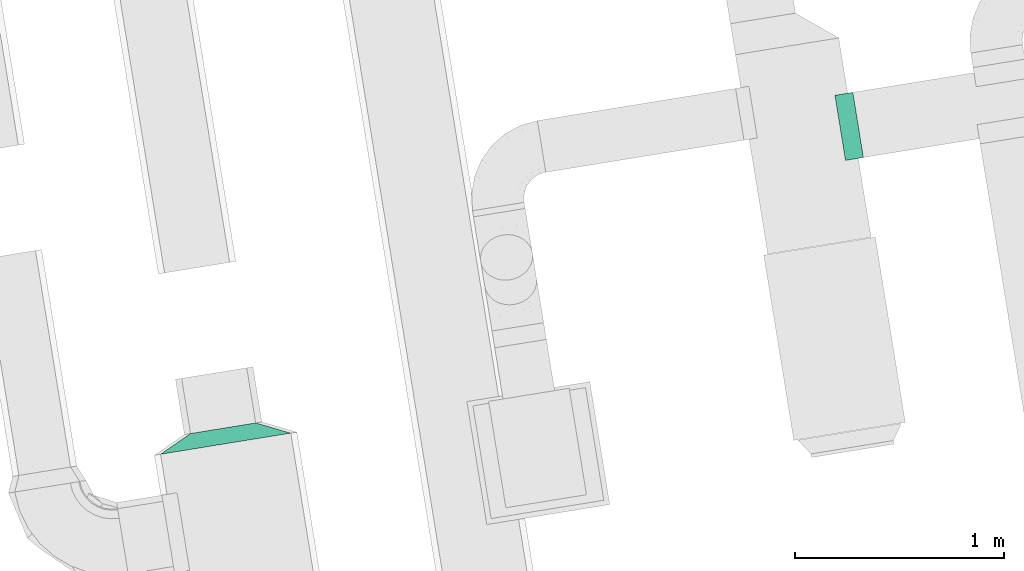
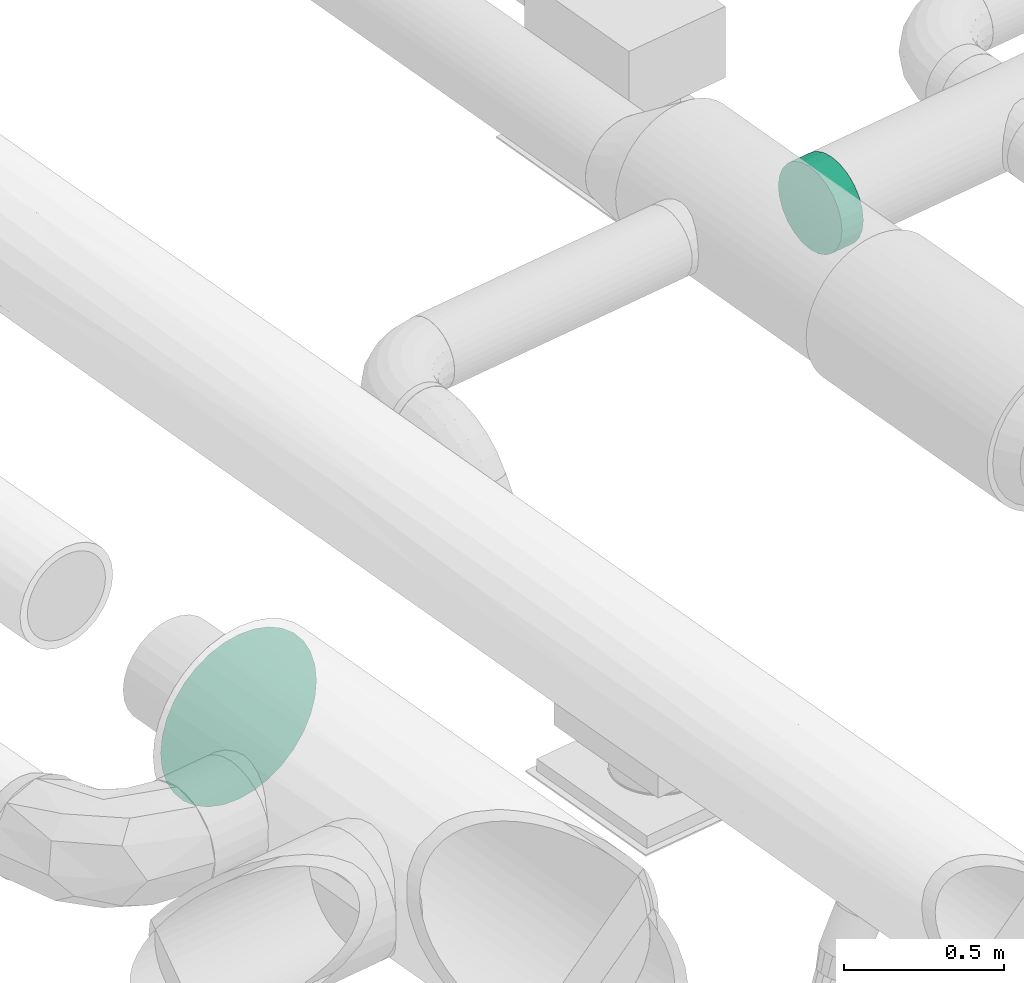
# One storey, part 35 of 39: 2 flow fittings.
"""IFC2X3 building model written with IfcOpenShell, lengths in millimetres."""

from ifc_helpers import new_model, entity, si_unit, converted_unit, derived_unit, direction, frame, origin, origin_with_axes, place, context, subcontext, project, spatial, faceted_brep, source, transform, mapped, material, type_object, element, save


model = new_model("IFC2X3")

# Units and contexts
plan_context = context("Plan", 3, precision=1e-05, world=origin_with_axes())
model_context = context("Model", 3, precision=0.01, world=origin(), true_north=direction((6.12323399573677e-17, 1.0)))
body_context = subcontext(model_context, "Body", "Model", "MODEL_VIEW")
ifc_project = project(units=[converted_unit("PLANEANGLEUNIT", "DEGREE", entity("IfcPositiveLengthMeasure", 0.0174532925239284), si_unit("PLANEANGLEUNIT", "RADIAN"), dimensions=[0, 0, 0, 0, 0, 0, 0]), si_unit("AREAUNIT", "SQUARE_METRE"), si_unit("LENGTHUNIT", "METRE", prefix="MILLI"), si_unit("MASSUNIT", "GRAM", prefix="KILO"), si_unit("POWERUNIT", "WATT"), si_unit("PRESSUREUNIT", "PASCAL", prefix="KILO"), si_unit("FORCEUNIT", "NEWTON", prefix="KILO"), si_unit("ELECTRICVOLTAGEUNIT", "VOLT"), si_unit("ELECTRICCURRENTUNIT", "AMPERE"), si_unit("THERMODYNAMICTEMPERATUREUNIT", "DEGREE_CELSIUS"), si_unit("TIMEUNIT", "SECOND"), si_unit("VOLUMEUNIT", "CUBIC_METRE"), derived_unit("LINEARVELOCITYUNIT", [(si_unit("LENGTHUNIT", "METRE"), 1), (si_unit("TIMEUNIT", "SECOND"), -1)]), derived_unit("VOLUMETRICFLOWRATEUNIT", [(si_unit("VOLUMEUNIT", "CUBIC_METRE"), 1), (si_unit("TIMEUNIT", "SECOND"), -1)]), derived_unit("THERMALTRANSMITTANCEUNIT", [(si_unit("POWERUNIT", "WATT"), 1), (si_unit("THERMODYNAMICTEMPERATUREUNIT", "KELVIN"), -1), (si_unit("AREAUNIT", "SQUARE_METRE"), -1)]), derived_unit("SOUNDPRESSUREUNIT", [(si_unit("PRESSUREUNIT", "PASCAL"), 1)])], contexts=[model_context, plan_context])

# Site, building, storey
site_placement = place(None, frame((-0.00071070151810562, 0.00438415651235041, 0.0), z_axis=(0.0, 0.0, 1.0), x_axis=(-0.160236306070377, 0.987078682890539, 0.0)))
site = spatial("IfcSite", under=ifc_project, at=site_placement, Name="Default", CompositionType="ELEMENT")
building_placement = place(site_placement, origin_with_axes())
building = spatial("IfcBuilding", under=site, at=building_placement, CompositionType="ELEMENT")
storey_placement = place(building_placement, frame((0.0, 0.0, 58999.9999999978), z_axis=(0.0, 0.0, 1.0), x_axis=(1.0, 0.0, 0.0)))
storey = spatial("IfcBuildingStorey", under=building, at=storey_placement, Name="Nivå F", CompositionType="ELEMENT", Elevation=58999.9999999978)

# Flow fittings
ifc_material_1 = material(Name="Material_Duct")
duct_fitting_type_1 = type_object("IfcDuctFittingType", Name="magicirc_reduction_001:magicirc_reduction_001", PredefinedType="NOTDEFINED", material=ifc_material_1)
shared_shape_1 = source(origin(), body_context, "Body", "Brep", [
    faceted_brep([(75.0, -61.4534514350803, 308.947363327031), (75.0, -120.545281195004, 291.022052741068), (75.0, -175.004623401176, 261.912927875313), (75.0, -222.738636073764, 222.738636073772), (75.0, -261.912927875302, 175.004623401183), (75.0, -291.022052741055, 120.54528119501), (75.0, -308.947363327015, 61.453451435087), (75.0, -315.0, 0.0), (75.0, -308.947363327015, -61.4534514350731), (75.0, -291.022052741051, -120.545281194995), (75.0, -261.912927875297, -175.004623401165), (75.0, -222.738636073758, -222.738636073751), (75.0, -175.004623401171, -261.912927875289), (75.0, -120.545281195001, -291.022052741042), (75.0, -61.4534514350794, -308.947363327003), (75.0, 0.0, -315.0), (75.0, 61.4534514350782, -308.947363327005), (75.0, 120.545281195, -291.022052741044), (75.0, 175.004623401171, -261.912927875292), (75.0, 222.738636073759, -222.738636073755), (75.0, 261.9129278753, -175.004623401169), (75.0, 291.022052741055, -120.545281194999), (75.0, 308.947363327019, -61.4534514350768), (75.0, 315.0, 0.0), (75.0, 308.94736332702, 61.4534514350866), (75.0, 291.02205274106, 120.54528119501), (75.0, 261.912927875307, 175.004623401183), (75.0, 222.738636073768, 222.738636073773), (75.0, 175.00462340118, 261.912927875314), (75.0, 120.545281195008, 291.022052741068), (75.0, 61.4534514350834, 308.947363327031), (75.0, 0.0, 315.0), (0.0, 111.369318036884, 111.369318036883), (0.0, 136.399001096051, 78.7500000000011), (0.0, 152.133317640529, 40.7639996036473), (0.0, 157.500000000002, 0.0), (0.0, 152.133317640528, -40.763999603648), (0.0, 136.399001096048, -78.7500000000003), (0.0, 111.369318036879, -111.36931803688), (0.0, 78.7499999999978, -136.399001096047), (0.0, 40.7639996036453, -152.133317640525), (0.0, 0.0, -157.499999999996), (0.0, -40.7639996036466, -152.133317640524), (0.0, -78.7499999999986, -136.399001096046), (0.0, -111.369318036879, -111.369318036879), (0.0, -136.399001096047, -78.7499999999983), (0.0, -152.133317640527, -40.7639996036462), (0.0, -157.499999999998, 0.0), (0.0, -152.133317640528, 40.7639996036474), (0.0, -136.39900109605, 78.7500000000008), (0.0, -111.369318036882, 111.369318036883), (0.0, -78.7500000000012, 136.399001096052), (0.0, -40.7639996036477, 152.133317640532), (0.0, 0.0, 157.500000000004), (0.0, 40.7639996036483, 152.133317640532), (0.0, 78.750000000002, 136.399001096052)], [[[0, 1, 2, 3, 4, 5, 6, 7, 8, 9, 10, 11, 12, 13, 14, 15, 16, 17, 18, 19, 20, 21, 22, 23, 24, 25, 26, 27, 28, 29, 30, 31]], [[32, 33, 34, 35, 36, 37, 38, 39, 40, 41, 42, 43, 44, 45, 46, 47, 48, 49, 50, 51, 52, 53, 54, 55]], [[46, 8, 47]], [[45, 9, 46]], [[43, 42, 13]], [[12, 44, 43]], [[14, 42, 41]], [[44, 10, 45]], [[9, 8, 46]], [[45, 10, 9]], [[8, 7, 47]], [[12, 11, 44]], [[13, 12, 43]], [[42, 14, 13]], [[11, 10, 44]], [[41, 15, 14]], [[15, 41, 16]], [[16, 41, 40]], [[39, 17, 40]], [[37, 36, 21]], [[20, 38, 37]], [[18, 39, 38]], [[22, 36, 35]], [[16, 40, 17]], [[17, 39, 18]], [[19, 18, 38]], [[38, 20, 19]], [[37, 21, 20]], [[22, 21, 36]], [[35, 23, 22]], [[34, 24, 35]], [[33, 25, 34]], [[55, 54, 29]], [[28, 32, 55]], [[30, 54, 53]], [[32, 26, 33]], [[25, 24, 34]], [[33, 26, 25]], [[24, 23, 35]], [[28, 27, 32]], [[29, 28, 55]], [[54, 30, 29]], [[27, 26, 32]], [[53, 31, 30]], [[31, 53, 0]], [[0, 53, 52]], [[51, 1, 52]], [[49, 48, 5]], [[4, 50, 49]], [[2, 51, 50]], [[6, 48, 47]], [[0, 52, 1]], [[1, 51, 2]], [[3, 2, 50]], [[50, 4, 3]], [[49, 5, 4]], [[6, 5, 48]], [[47, 7, 6]]]),
])
flow_fitting_1_placement = place(storey_placement, frame((777053.610474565, -502178.834705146, 3130.03415297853), z_axis=(0.0, 0.0, 1.0), x_axis=(-1.0, 0.0, 0.0)))
element("IfcFlowFitting", 1, at=flow_fitting_1_placement, inside=storey, type_object=duct_fitting_type_1, material=ifc_material_1, Name="magicirc_reduction_001:magicirc_reduction_001", ObjectType="magicirc_reduction_001:magicirc_reduction_001", context=body_context, shape_type="MappedRepresentation", body=[
    mapped(shared_shape_1, transform((0.0, 0.0, 0.0), scale=1.0)),
])
ifc_material_2 = material(Name="<Unnamed>")
duct_fitting_type_2 = type_object("IfcDuctFittingType", Name="magicirc_tapoutlet_1:magicirc_tapoutlet_001", PredefinedType="NOTDEFINED", material=ifc_material_2)
shared_shape_2 = source(origin(), body_context, "Body", "Brep", [
    faceted_brep([(-61.9472168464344, 0.0, -157.500000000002), (-61.9472168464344, -40.7639996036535, -152.133317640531), (-61.9472168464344, -78.7500000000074, -136.399001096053), (-61.9472168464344, -111.36931803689, -111.369318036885), (-61.9472168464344, -136.399001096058, -78.7500000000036), (-61.9472168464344, -152.133317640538, -40.7639996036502), (-61.9472168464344, -157.500000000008, 0.0), (-61.9472168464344, -152.133317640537, 40.7639996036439), (-61.9472168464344, -136.399001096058, 78.749999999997), (-61.9472168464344, -111.36931803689, 111.369318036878), (-61.9472168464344, -78.7500000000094, 136.399001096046), (-61.9472168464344, -40.7639996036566, 152.133317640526), (-61.9472168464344, 0.0, 157.499999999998), (-61.9472168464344, 40.7639996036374, 152.133317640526), (-61.9472168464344, 78.7499999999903, 136.399001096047), (-61.9472168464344, 111.369318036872, 111.36931803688), (-61.9472168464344, 136.39900109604, 78.7499999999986), (-61.9472168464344, 152.133317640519, 40.7639996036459), (-61.9472168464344, 157.499999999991, 0.0), (-61.9472168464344, 152.13331764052, -40.7639996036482), (-61.9472168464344, 136.399001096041, -78.7500000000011), (-61.9472168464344, 111.369318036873, -111.369318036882), (-61.9472168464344, 78.7499999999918, -136.39900109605), (-61.9472168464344, 40.763999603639, -152.133317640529), (0.0, 0.0, 157.499999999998), (25.0, 0.0, 157.499999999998), (25.0, 40.7639996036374, 152.133317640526), (0.0, 40.7639996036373, 152.133317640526), (25.0, 78.7499999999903, 136.399001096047), (0.0, 78.7499999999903, 136.399001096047), (25.0, 111.369318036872, 111.36931803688), (0.0, 111.369318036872, 111.36931803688), (0.0, 136.39900109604, 78.7499999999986), (25.0, 136.39900109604, 78.7499999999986), (25.0, 152.133317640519, 40.7639996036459), (0.0, 152.133317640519, 40.7639996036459), (25.0, 157.499999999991, 0.0), (0.0, 157.499999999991, 0.0), (25.0, 152.13331764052, -40.7639996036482), (0.0, 152.13331764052, -40.7639996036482), (25.0, 136.399001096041, -78.7500000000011), (0.0, 136.399001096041, -78.7500000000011), (25.0, 111.369318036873, -111.369318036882), (0.0, 111.369318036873, -111.369318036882), (0.0, 78.7499999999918, -136.39900109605), (25.0, 78.7499999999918, -136.39900109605), (25.0, 40.763999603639, -152.133317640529), (0.0, 40.763999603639, -152.133317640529), (25.0, 0.0, -157.500000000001), (0.0, 0.0, -157.500000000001), (25.0, -40.7639996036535, -152.133317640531), (0.0, -40.7639996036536, -152.133317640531), (25.0, -78.7500000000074, -136.399001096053), (0.0, -78.7500000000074, -136.399001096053), (25.0, -111.36931803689, -111.369318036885), (0.0, -111.36931803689, -111.369318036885), (0.0, -152.133317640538, -40.7639996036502), (25.0, -152.133317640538, -40.7639996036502), (25.0, -157.50000000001, 0.0), (0.0, -157.50000000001, 0.0), (0.0, -136.399001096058, -78.7500000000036), (25.0, -136.399001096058, -78.7500000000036), (25.0, -152.133317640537, 40.7639996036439), (0.0, -152.133317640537, 40.7639996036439), (25.0, -136.399001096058, 78.749999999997), (0.0, -136.399001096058, 78.749999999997), (25.0, -111.36931803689, 111.369318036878), (0.0, -111.36931803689, 111.369318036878), (0.0, -78.7500000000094, 136.399001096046), (25.0, -78.7500000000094, 136.399001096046), (25.0, -40.7639996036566, 152.133317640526), (0.0, -40.7639996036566, 152.133317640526)], [[[0, 1, 2, 3, 4, 5, 6, 7, 8, 9, 10, 11, 12, 13, 14, 15, 16, 17, 18, 19, 20, 21, 22, 23]], [[12, 24, 25, 26, 27, 13]], [[13, 27, 26, 28, 29, 14]], [[14, 29, 28, 30, 31, 15]], [[16, 32, 33, 34, 35, 17]], [[17, 35, 34, 36, 37, 18]], [[15, 31, 30, 33, 32, 16]], [[18, 37, 36, 38, 39, 19]], [[19, 39, 38, 40, 41, 20]], [[20, 41, 40, 42, 43, 21]], [[23, 22, 44, 45, 46, 47]], [[0, 23, 47, 46, 48, 49]], [[21, 43, 42, 45, 44, 22]], [[0, 49, 48, 50, 51, 1]], [[1, 51, 50, 52, 53, 2]], [[2, 53, 52, 54, 55, 3]], [[56, 57, 58, 59, 6, 5]], [[60, 61, 57, 56, 5, 4]], [[3, 55, 54, 61, 60, 4]], [[6, 59, 58, 62, 63, 7]], [[7, 63, 62, 64, 65, 8]], [[8, 65, 64, 66, 67, 9]], [[10, 68, 69, 70, 71, 11]], [[11, 71, 70, 25, 24, 12]], [[9, 67, 66, 69, 68, 10]], [[46, 45, 42, 40, 38, 36, 34, 33, 30, 28, 26, 25, 70, 69, 66, 64, 62, 58, 57, 61, 54, 52, 50, 48]]]),
    faceted_brep([(25.0, 40.763999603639, -152.133317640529), (25.0, 78.7499999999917, -136.39900109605), (25.0, 111.369318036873, -111.369318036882), (25.0, 136.399001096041, -78.7500000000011), (25.0, 152.13331764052, -40.7639996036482), (25.0, 157.499999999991, 0.0), (25.0, 152.133317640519, 40.7639996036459), (25.0, 136.399001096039, 78.7499999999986), (25.0, 111.369318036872, 111.36931803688), (25.0, 78.7499999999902, 136.399001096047), (25.0, 40.7639996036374, 152.133317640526), (25.0, 0.0, 157.499999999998), (25.0, -40.7639996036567, 152.133317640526), (25.0, -78.7500000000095, 136.399001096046), (25.0, -111.369318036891, 111.369318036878), (25.0, -136.399001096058, 78.749999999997), (25.0, -152.133317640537, 40.7639996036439), (25.0, -157.50000000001, 0.0), (25.0, -152.133317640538, -40.7639996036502), (25.0, -136.399001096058, -78.7500000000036), (25.0, -111.36931803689, -111.369318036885), (25.0, -78.7500000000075, -136.399001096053), (25.0, -40.7639996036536, -152.133317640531), (25.0, 0.0, -157.500000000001), (0.0, 0.0, 157.499999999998), (0.0, 40.7639996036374, 152.133317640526), (-61.9472168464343, 40.7639996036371, 152.133317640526), (-61.9472168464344, 0.0, 157.499999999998), (0.0, 78.7499999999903, 136.399001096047), (-61.9472168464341, 78.74999999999, 136.399001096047), (0.0, 111.369318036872, 111.36931803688), (-61.947216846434, 111.369318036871, 111.36931803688), (0.0, 136.39900109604, 78.7499999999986), (0.0, 152.133317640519, 40.7639996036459), (-61.9472168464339, 152.133317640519, 40.7639996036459), (-61.9472168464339, 136.399001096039, 78.7499999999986), (0.0, 157.499999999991, 0.0), (-61.9472168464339, 157.499999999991, 0.0), (0.0, 152.13331764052, -40.7639996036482), (-61.9472168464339, 152.133317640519, -40.7639996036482), (0.0, 136.399001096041, -78.7500000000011), (-61.9472168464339, 136.39900109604, -78.7500000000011), (0.0, 111.369318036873, -111.369318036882), (-61.947216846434, 111.369318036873, -111.369318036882), (0.0, 0.0, -157.500000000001), (-61.9472168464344, 0.0, -157.500000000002), (-61.9472168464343, 40.7639996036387, -152.133317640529), (0.0, 40.763999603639, -152.133317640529), (-61.9472168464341, 78.7499999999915, -136.39900109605), (0.0, 78.7499999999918, -136.39900109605), (0.0, -40.7639996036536, -152.133317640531), (-61.9472168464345, -40.7639996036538, -152.133317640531), (0.0, -78.7500000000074, -136.399001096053), (-61.9472168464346, -78.7500000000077, -136.399001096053), (0.0, -111.36931803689, -111.369318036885), (-61.9472168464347, -111.36931803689, -111.369318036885), (0.0, -136.399001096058, -78.7500000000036), (0.0, -152.133317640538, -40.7639996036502), (-61.9472168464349, -152.133317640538, -40.7639996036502), (-61.9472168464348, -136.399001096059, -78.7500000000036), (0.0, -157.50000000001, 0.0), (-61.9472168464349, -157.500000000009, 0.0), (0.0, -152.133317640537, 40.763999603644), (-61.9472168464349, -152.133317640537, 40.7639996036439), (0.0, -136.399001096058, 78.749999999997), (-61.9472168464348, -136.399001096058, 78.749999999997), (0.0, -111.36931803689, 111.369318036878), (-61.9472168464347, -111.369318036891, 111.369318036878), (0.0, -78.7500000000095, 136.399001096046), (0.0, -40.7639996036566, 152.133317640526), (-61.9472168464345, -40.7639996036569, 152.133317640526), (-61.9472168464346, -78.7500000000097, 136.399001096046)], [[[0, 1, 2, 3, 4, 5, 6, 7, 8, 9, 10, 11, 12, 13, 14, 15, 16, 17, 18, 19, 20, 21, 22, 23]], [[24, 11, 10, 25, 26, 27]], [[25, 10, 9, 28, 29, 26]], [[28, 9, 8, 30, 31, 29]], [[32, 7, 6, 33, 34, 35]], [[33, 6, 5, 36, 37, 34]], [[30, 8, 7, 32, 35, 31]], [[36, 5, 4, 38, 39, 37]], [[38, 4, 3, 40, 41, 39]], [[40, 3, 2, 42, 43, 41]], [[0, 23, 44, 45, 46, 47]], [[1, 0, 47, 46, 48, 49]], [[49, 48, 43, 42, 2, 1]], [[44, 23, 22, 50, 51, 45]], [[50, 22, 21, 52, 53, 51]], [[52, 21, 20, 54, 55, 53]], [[56, 19, 18, 57, 58, 59]], [[57, 18, 17, 60, 61, 58]], [[54, 20, 19, 56, 59, 55]], [[60, 17, 16, 62, 63, 61]], [[62, 16, 15, 64, 65, 63]], [[64, 15, 14, 66, 67, 65]], [[68, 13, 12, 69, 70, 71]], [[69, 12, 11, 24, 27, 70]], [[66, 14, 13, 68, 71, 67]], [[45, 51, 53, 55, 59, 58, 61, 63, 65, 67, 71, 70, 27, 26, 29, 31, 35, 34, 37, 39, 41, 43, 48, 46]]]),
    faceted_brep([(-61.9472168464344, 0.0, -157.500000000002), (-61.9472168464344, -40.7639996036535, -152.133317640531), (-61.9472168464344, -78.7500000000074, -136.399001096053), (-61.9472168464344, -111.36931803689, -111.369318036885), (-61.9472168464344, -136.399001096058, -78.7500000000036), (-61.9472168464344, -152.133317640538, -40.7639996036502), (-61.9472168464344, -157.500000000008, 0.0), (-61.9472168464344, -152.133317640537, 40.7639996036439), (-61.9472168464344, -136.399001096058, 78.749999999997), (-61.9472168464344, -111.36931803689, 111.369318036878), (-61.9472168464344, -78.7500000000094, 136.399001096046), (-61.9472168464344, -40.7639996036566, 152.133317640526), (-61.9472168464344, 0.0, 157.499999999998), (-61.9472168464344, 40.7639996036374, 152.133317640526), (-61.9472168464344, 78.7499999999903, 136.399001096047), (-61.9472168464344, 111.369318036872, 111.36931803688), (-61.9472168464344, 136.39900109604, 78.7499999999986), (-61.9472168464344, 152.133317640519, 40.7639996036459), (-61.9472168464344, 157.499999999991, 0.0), (-61.9472168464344, 152.13331764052, -40.7639996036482), (-61.9472168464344, 136.399001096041, -78.7500000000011), (-61.9472168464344, 111.369318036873, -111.369318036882), (-61.9472168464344, 78.7499999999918, -136.39900109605), (-61.9472168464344, 40.763999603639, -152.133317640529), (0.0, 0.0, 157.499999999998), (25.0, 0.0, 157.499999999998), (25.0, 40.7639996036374, 152.133317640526), (0.0, 40.7639996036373, 152.133317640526), (25.0, 78.7499999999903, 136.399001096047), (0.0, 78.7499999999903, 136.399001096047), (25.0, 111.369318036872, 111.36931803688), (0.0, 111.369318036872, 111.36931803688), (0.0, 136.39900109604, 78.7499999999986), (25.0, 136.39900109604, 78.7499999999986), (25.0, 152.133317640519, 40.7639996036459), (0.0, 152.133317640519, 40.7639996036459), (25.0, 157.499999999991, 0.0), (0.0, 157.499999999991, 0.0), (25.0, 152.13331764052, -40.7639996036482), (0.0, 152.13331764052, -40.7639996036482), (25.0, 136.399001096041, -78.7500000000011), (0.0, 136.399001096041, -78.7500000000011), (25.0, 111.369318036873, -111.369318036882), (0.0, 111.369318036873, -111.369318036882), (0.0, 78.7499999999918, -136.39900109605), (25.0, 78.7499999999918, -136.39900109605), (25.0, 40.763999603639, -152.133317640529), (0.0, 40.763999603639, -152.133317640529), (25.0, 0.0, -157.500000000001), (0.0, 0.0, -157.500000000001), (25.0, -40.7639996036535, -152.133317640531), (0.0, -40.7639996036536, -152.133317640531), (25.0, -78.7500000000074, -136.399001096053), (0.0, -78.7500000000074, -136.399001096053), (25.0, -111.36931803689, -111.369318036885), (0.0, -111.36931803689, -111.369318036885), (0.0, -152.133317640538, -40.7639996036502), (25.0, -152.133317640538, -40.7639996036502), (25.0, -157.50000000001, 0.0), (0.0, -157.50000000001, 0.0), (0.0, -136.399001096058, -78.7500000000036), (25.0, -136.399001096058, -78.7500000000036), (25.0, -152.133317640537, 40.7639996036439), (0.0, -152.133317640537, 40.7639996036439), (25.0, -136.399001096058, 78.749999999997), (0.0, -136.399001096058, 78.749999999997), (25.0, -111.36931803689, 111.369318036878), (0.0, -111.36931803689, 111.369318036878), (0.0, -78.7500000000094, 136.399001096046), (25.0, -78.7500000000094, 136.399001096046), (25.0, -40.7639996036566, 152.133317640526), (0.0, -40.7639996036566, 152.133317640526)], [[[0, 1, 2, 3, 4, 5, 6, 7, 8, 9, 10, 11, 12, 13, 14, 15, 16, 17, 18, 19, 20, 21, 22, 23]], [[12, 24, 25, 26, 27, 13]], [[13, 27, 26, 28, 29, 14]], [[14, 29, 28, 30, 31, 15]], [[16, 32, 33, 34, 35, 17]], [[17, 35, 34, 36, 37, 18]], [[15, 31, 30, 33, 32, 16]], [[18, 37, 36, 38, 39, 19]], [[19, 39, 38, 40, 41, 20]], [[20, 41, 40, 42, 43, 21]], [[23, 22, 44, 45, 46, 47]], [[0, 23, 47, 46, 48, 49]], [[21, 43, 42, 45, 44, 22]], [[0, 49, 48, 50, 51, 1]], [[1, 51, 50, 52, 53, 2]], [[2, 53, 52, 54, 55, 3]], [[56, 57, 58, 59, 6, 5]], [[60, 61, 57, 56, 5, 4]], [[3, 55, 54, 61, 60, 4]], [[6, 59, 58, 62, 63, 7]], [[7, 63, 62, 64, 65, 8]], [[8, 65, 64, 66, 67, 9]], [[10, 68, 69, 70, 71, 11]], [[11, 71, 70, 25, 24, 12]], [[9, 67, 66, 69, 68, 10]], [[46, 45, 42, 40, 38, 36, 34, 33, 30, 28, 26, 25, 70, 69, 66, 64, 62, 58, 57, 61, 54, 52, 50, 48]]]),
])
flow_fitting_2_placement = place(storey_placement, frame((777997.619644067, -505380.008615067, 3130.0), z_axis=(0.0, 0.0, -1.0), x_axis=(0.0, -1.0, 0.0)))
element("IfcFlowFitting", 2, at=flow_fitting_2_placement, inside=storey, type_object=duct_fitting_type_2, material=ifc_material_2, Name="magicirc_tapoutlet_1:magicirc_tapoutlet_001", ObjectType="magicirc_tapoutlet_1:magicirc_tapoutlet_001", context=body_context, shape_type="MappedRepresentation", body=[
    mapped(shared_shape_2, transform((0.0, 0.0, 0.0), scale=1.0)),
])

save(model, "model.ifc")
